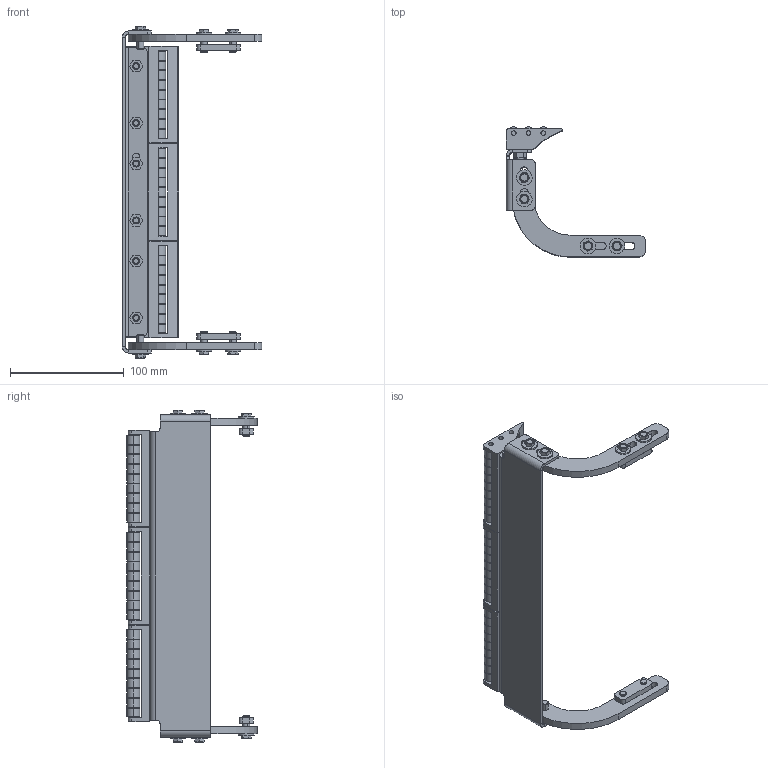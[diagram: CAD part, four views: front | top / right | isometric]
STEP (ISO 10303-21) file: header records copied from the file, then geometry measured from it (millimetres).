
FILE_DESCRIPTION((''),'2;1');
FILE_NAME('518355-10_ASM','2023-03-24T',('jenni.wallner'),(''),'PRO/ENGINEER BY PARAMETRIC TECHNOLOGY CORPORATION, 2012420','PRO/ENGINEER BY PARAMETRIC TECHNOLOGY CORPORATION, 2012420','');
FILE_SCHEMA(('CONFIG_CONTROL_DESIGN'));
Length unit declared in the file: inch
Products named in the file (37): 960616MSSF; 807-1829_25-1-SOLID1; 807-1829_7-1-SOLID1; 807-1829_15-1-SOLID1; 807-1829_11-1-SOLID1; 807-1829_21-1-SOLID1; 807-1829_20-1-SOLID1; 807-1829_16-1-SOLID1; 807-1829_8-1-SOLID1; CUT-EXTRUDE1_3_; 807-1829_12-1-SOLID1; CUT-EXTRUDE1_2_; 807-1829_6-1-SOLID1; 807-1829_4-1-SOLID1; 807-1829_2-1-SOLID1; 807-1829_1-1-SOLID1; 807-1829_17-1-SOLID1; 807-1829_14-1-SOLID1; 807-1829_9-1-SOLID1; 807-1829_13-1-SOLID1; 807-1829_19-1-SOLID1; 807-1829-1-SOLID1; 807-1829_5-1-SOLID1; 807-1829_23-1-SOLID1; 807-1829_26-1-SOLID1; 807-1829_18-1-SOLID1; 807-1829_24-1-SOLID1; 807-1829_10-1-SOLID1; 807-1829_27-1-SOLID1; CUT-EXTRUDE1_1_; 807-1829_3-1-SOLID1; 807-1829_ASM; 532387; 520309; 518353-WW_518353-10; ASM0001_ASM; 518355-10_ASM
Assembly tree (47 placements, depth 4):
  518355-10_ASM
    ASM0001_ASM
      960616MSSF  x8
      807-1829_ASM  x3
        807-1829_25-1-SOLID1
        807-1829_7-1-SOLID1
        807-1829_15-1-SOLID1
        807-1829_11-1-SOLID1
        807-1829_21-1-SOLID1
        807-1829_20-1-SOLID1
        807-1829_16-1-SOLID1
        807-1829_8-1-SOLID1
        CUT-EXTRUDE1_3_
        807-1829_12-1-SOLID1
        CUT-EXTRUDE1_2_
        807-1829_6-1-SOLID1
        807-1829_4-1-SOLID1
        807-1829_2-1-SOLID1
        807-1829_1-1-SOLID1
        807-1829_17-1-SOLID1
        807-1829_14-1-SOLID1
        807-1829_9-1-SOLID1
        807-1829_13-1-SOLID1
        807-1829_19-1-SOLID1
        807-1829-1-SOLID1
        807-1829_5-1-SOLID1
        807-1829_23-1-SOLID1
        807-1829_26-1-SOLID1
        807-1829_18-1-SOLID1
        807-1829_24-1-SOLID1
        807-1829_10-1-SOLID1
        807-1829_27-1-SOLID1
        CUT-EXTRUDE1_1_
        807-1829_3-1-SOLID1
      532387  x2
      520309  x2
      518353-WW_518353-10
Bounding box: 122.82 x 114.68 x 292.52 mm (x, y, z)
Volume: 234033.7 mm3; surface area: 145801 mm2
Topology: 103 solids, 103 shells, 854 faces, 1797 edges, 1182 vertices
Faces by surface type: plane 424, cylinder 386, cone 44
Entity records: 10006 total; most frequent: DIRECTION 1893, CARTESIAN_POINT 1646, ORIENTED_EDGE 1386, AXIS2_PLACEMENT_3D 765, EDGE_CURVE 693, VERTEX_POINT 456, EDGE_LOOP 367, VECTOR 363
